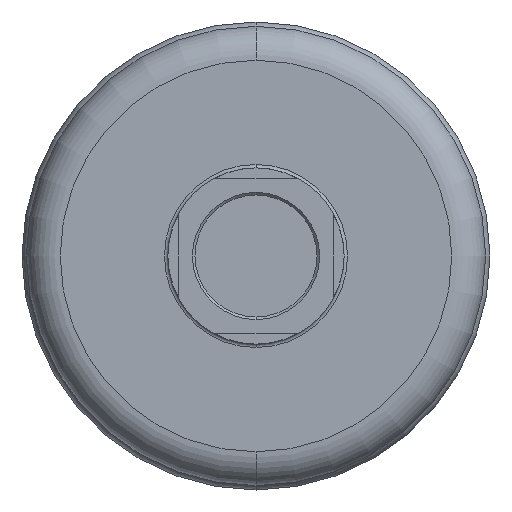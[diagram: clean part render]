
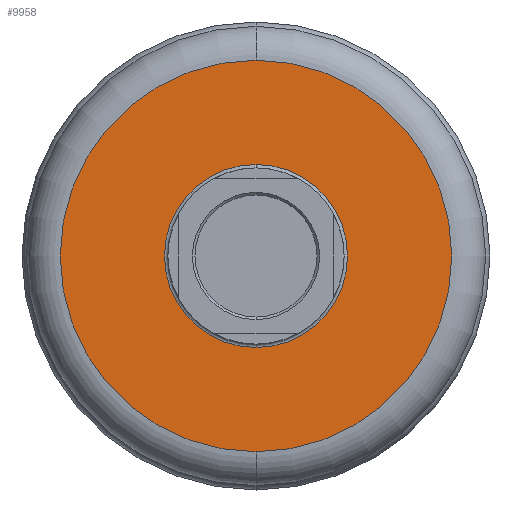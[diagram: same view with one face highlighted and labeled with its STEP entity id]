
A CAD part, front view. The second image highlights one B-rep face of the part: STEP entity #9958.
In plain terms, the highlighted planar face has unit normal (0, -1, 0).
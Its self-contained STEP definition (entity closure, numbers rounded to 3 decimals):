
#351 = ORIENTED_EDGE ( 'NONE', *, *, #19031, .T. ) ;
#761 = ORIENTED_EDGE ( 'NONE', *, *, #18771, .F. ) ;
#1161 = DIRECTION ( 'NONE',  ( 0., -1., 0. ) ) ;
#2361 = VERTEX_POINT ( 'NONE', #8799 ) ;
#2479 = FACE_BOUND ( 'NONE', #26055, .T. ) ;
#4567 = AXIS2_PLACEMENT_3D ( 'NONE', #20441, #8935, #7006 ) ;
#4781 = ORIENTED_EDGE ( 'NONE', *, *, #9991, .T. ) ;
#7006 = DIRECTION ( 'NONE',  ( 0., 0., 1. ) ) ;
#7182 = FACE_OUTER_BOUND ( 'NONE', #11266, .T. ) ;
#8799 = CARTESIAN_POINT ( 'NONE',  ( 183.128, -322.591, 231.539 ) ) ;
#8935 = DIRECTION ( 'NONE',  ( 0., 1., 0. ) ) ;
#8978 = AXIS2_PLACEMENT_3D ( 'NONE', #17042, #12490, #27696 ) ;
#9958 = ADVANCED_FACE ( 'NONE', ( #2479, #7182 ), #20167, .T. ) ;
#9991 = EDGE_CURVE ( 'NONE', #20076, #28768, #14903, .T. ) ;
#10306 = DIRECTION ( 'NONE',  ( 0., 1., 0. ) ) ;
#11266 = EDGE_LOOP ( 'NONE', ( #12360, #761 ) ) ;
#12107 = DIRECTION ( 'NONE',  ( 0., 0., 1. ) ) ;
#12360 = ORIENTED_EDGE ( 'NONE', *, *, #28793, .F. ) ;
#12490 = DIRECTION ( 'NONE',  ( 0., 1., 0. ) ) ;
#12542 = DIRECTION ( 'NONE',  ( 0., 0., -1. ) ) ;
#14169 = DIRECTION ( 'NONE',  ( 0., 1., 0. ) ) ;
#14824 = CARTESIAN_POINT ( 'NONE',  ( 183.128, -322.591, 347.039 ) ) ;
#14859 = CARTESIAN_POINT ( 'NONE',  ( 183.128, -322.591, 293.039 ) ) ;
#14903 = CIRCLE ( 'NONE', #26099, 54. ) ;
#15450 = CIRCLE ( 'NONE', #26622, 54. ) ;
#15984 = CIRCLE ( 'NONE', #8978, 115.5 ) ;
#16590 = DIRECTION ( 'NONE',  ( 0., 0., 1. ) ) ;
#17042 = CARTESIAN_POINT ( 'NONE',  ( 183.128, -322.591, 347.039 ) ) ;
#17181 = CIRCLE ( 'NONE', #4567, 115.5 ) ;
#18771 = EDGE_CURVE ( 'NONE', #2361, #19940, #15984, .T. ) ;
#19031 = EDGE_CURVE ( 'NONE', #28768, #20076, #15450, .T. ) ;
#19940 = VERTEX_POINT ( 'NONE', #23033 ) ;
#20076 = VERTEX_POINT ( 'NONE', #14859 ) ;
#20167 = PLANE ( 'NONE',  #27928 ) ;
#20441 = CARTESIAN_POINT ( 'NONE',  ( 183.128, -322.591, 347.039 ) ) ;
#21474 = CARTESIAN_POINT ( 'NONE',  ( 183.128, -322.591, 347.039 ) ) ;
#23033 = CARTESIAN_POINT ( 'NONE',  ( 183.128, -322.591, 462.539 ) ) ;
#24561 = CARTESIAN_POINT ( 'NONE',  ( 183.128, -322.591, 401.039 ) ) ;
#25442 = CARTESIAN_POINT ( 'NONE',  ( 129.128, -322.591, 347.039 ) ) ;
#26055 = EDGE_LOOP ( 'NONE', ( #351, #4781 ) ) ;
#26099 = AXIS2_PLACEMENT_3D ( 'NONE', #21474, #14169, #12107 ) ;
#26622 = AXIS2_PLACEMENT_3D ( 'NONE', #14824, #10306, #16590 ) ;
#27696 = DIRECTION ( 'NONE',  ( 0., 0., 1. ) ) ;
#27928 = AXIS2_PLACEMENT_3D ( 'NONE', #25442, #1161, #12542 ) ;
#28768 = VERTEX_POINT ( 'NONE', #24561 ) ;
#28793 = EDGE_CURVE ( 'NONE', #19940, #2361, #17181, .T. ) ;
